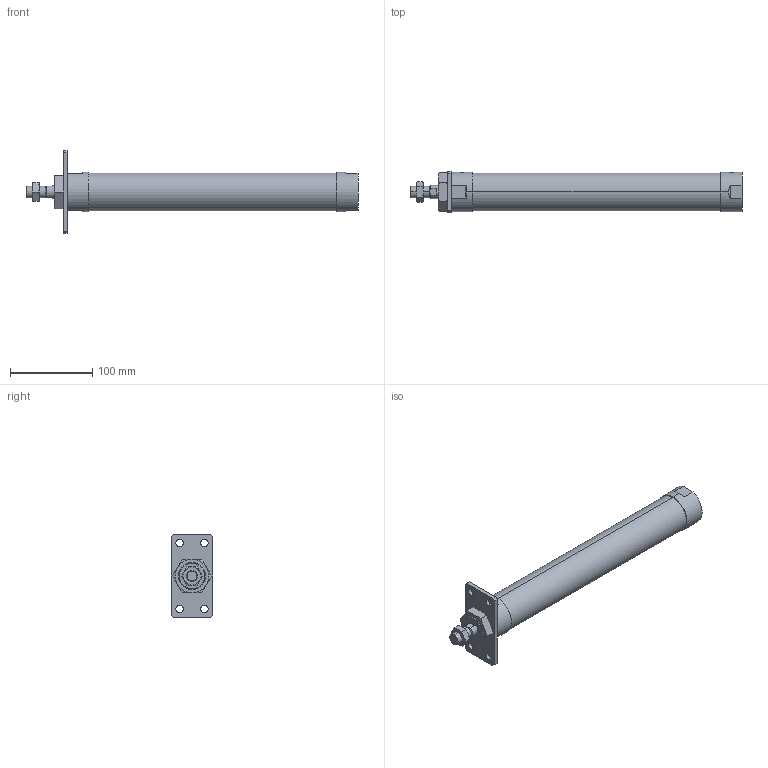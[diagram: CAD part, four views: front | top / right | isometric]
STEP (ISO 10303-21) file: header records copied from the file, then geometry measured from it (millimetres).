
FILE_DESCRIPTION (( 'STEP AP203' ), '1' );
FILE_NAME ('JGND2-40-250-A.STEP', '2016-08-04T03:14:59', ( '' ), ( '' ), 'SwSTEP 2.0', 'SolidWorks 2014', '' );
FILE_SCHEMA (( 'CONFIG_CONTROL_DESIGN' ));
Length unit declared in the file: millimetre
Products named in the file (5): J#2-40-250(P); J#2-40-A; JGND2-40-250-A
Assembly tree (4 placements, depth 2):
  JGND2-40-250-A
    J#2-40-250(P)
    (unnamed)
    (unnamed)
    J#2-40-A
Bounding box: 403 x 50 x 100 mm (x, y, z)
Volume: 637110.6 mm3; surface area: 75022.3 mm2
Topology: 4 solids, 4 shells, 109 faces, 254 edges, 155 vertices
Faces by surface type: plane 42, cylinder 30, torus 24, cone 13
Entity records: 4068 total; most frequent: CARTESIAN_POINT 1112, DIRECTION 511, ORIENTED_EDGE 500, EDGE_CURVE 250, AXIS2_PLACEMENT_3D 208, VERTEX_POINT 155, EDGE_LOOP 129, FACE_OUTER_BOUND 109
